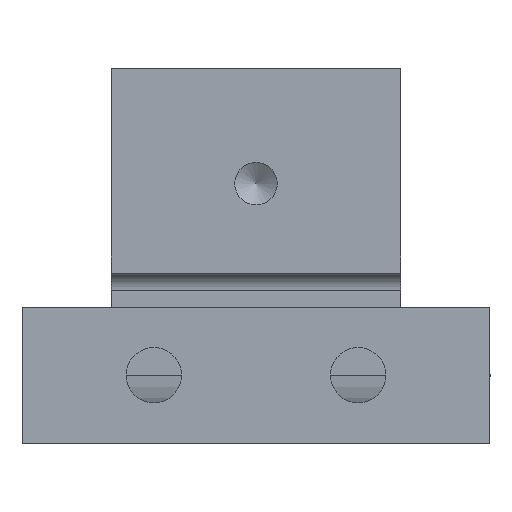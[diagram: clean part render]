
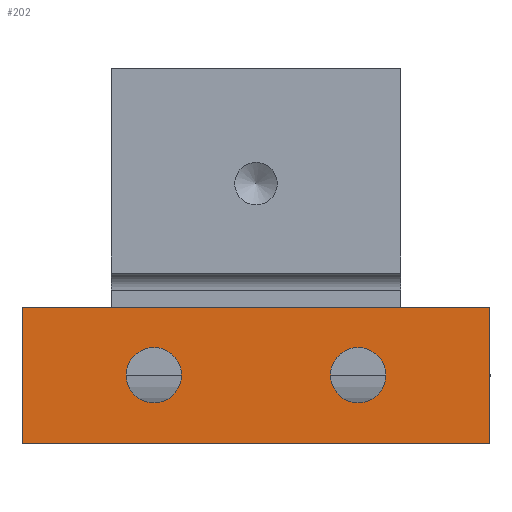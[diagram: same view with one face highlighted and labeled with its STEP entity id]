
A CAD part, front view. The second image highlights one B-rep face of the part: STEP entity #202.
In plain terms, the highlighted planar face has unit normal (0, -1, 0).
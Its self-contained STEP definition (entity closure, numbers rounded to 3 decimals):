
#2 = LINE ( 'NONE', #488, #953 ) ;
#44 = DIRECTION ( 'NONE',  ( 1., 0., 0. ) ) ;
#51 = FACE_BOUND ( 'NONE', #547, .T. ) ;
#57 = CARTESIAN_POINT ( 'NONE',  ( 12., 0., 0. ) ) ;
#73 = PLANE ( 'NONE',  #873 ) ;
#74 = VERTEX_POINT ( 'NONE', #191 ) ;
#170 = VERTEX_POINT ( 'NONE', #971 ) ;
#178 = CARTESIAN_POINT ( 'NONE',  ( -27.5, 0., 8. ) ) ;
#191 = CARTESIAN_POINT ( 'NONE',  ( 12., 0., 3.25 ) ) ;
#202 = ADVANCED_FACE ( 'NONE', ( #307, #51, #1019 ), #73, .F. ) ;
#233 = ORIENTED_EDGE ( 'NONE', *, *, #320, .T. ) ;
#264 = VERTEX_POINT ( 'NONE', #178 ) ;
#284 = LINE ( 'NONE', #914, #549 ) ;
#290 = CARTESIAN_POINT ( 'NONE',  ( 27.5, 0., -8. ) ) ;
#294 = VECTOR ( 'NONE', #44, 1000. ) ;
#298 = EDGE_CURVE ( 'NONE', #264, #170, #284, .T. ) ;
#301 = DIRECTION ( 'NONE',  ( 0., 1., 0. ) ) ;
#302 = VERTEX_POINT ( 'NONE', #1502 ) ;
#304 = ORIENTED_EDGE ( 'NONE', *, *, #360, .F. ) ;
#307 = FACE_BOUND ( 'NONE', #1458, .T. ) ;
#311 = VERTEX_POINT ( 'NONE', #290 ) ;
#320 = EDGE_CURVE ( 'NONE', #74, #74, #1448, .T. ) ;
#360 = EDGE_CURVE ( 'NONE', #1538, #311, #1206, .T. ) ;
#380 = EDGE_LOOP ( 'NONE', ( #1554, #1073, #1404, #304 ) ) ;
#405 = AXIS2_PLACEMENT_3D ( 'NONE', #1157, #1530, #1034 ) ;
#447 = VECTOR ( 'NONE', #482, 1000. ) ;
#482 = DIRECTION ( 'NONE',  ( 0., 0., -1. ) ) ;
#488 = CARTESIAN_POINT ( 'NONE',  ( -27.5, 0., -8. ) ) ;
#518 = CARTESIAN_POINT ( 'NONE',  ( 27.5, 0., 8. ) ) ;
#534 = EDGE_CURVE ( 'NONE', #264, #1538, #621, .T. ) ;
#538 = DIRECTION ( 'NONE',  ( 0., 1., 0. ) ) ;
#547 = EDGE_LOOP ( 'NONE', ( #937 ) ) ;
#549 = VECTOR ( 'NONE', #1413, 1000. ) ;
#621 = LINE ( 'NONE', #985, #294 ) ;
#665 = DIRECTION ( 'NONE',  ( 0., 0., 1. ) ) ;
#709 = CARTESIAN_POINT ( 'NONE',  ( 27.5, 0., 10. ) ) ;
#746 = AXIS2_PLACEMENT_3D ( 'NONE', #57, #538, #665 ) ;
#771 = EDGE_CURVE ( 'NONE', #170, #311, #2, .T. ) ;
#873 = AXIS2_PLACEMENT_3D ( 'NONE', #1169, #301, #1387 ) ;
#882 = CIRCLE ( 'NONE', #405, 3.25 ) ;
#914 = CARTESIAN_POINT ( 'NONE',  ( -27.5, 0., 10. ) ) ;
#937 = ORIENTED_EDGE ( 'NONE', *, *, #1270, .T. ) ;
#953 = VECTOR ( 'NONE', #970, 1000. ) ;
#970 = DIRECTION ( 'NONE',  ( 1., 0., 0. ) ) ;
#971 = CARTESIAN_POINT ( 'NONE',  ( -27.5, 0., -8. ) ) ;
#985 = CARTESIAN_POINT ( 'NONE',  ( -27.5, 0., 8. ) ) ;
#1019 = FACE_OUTER_BOUND ( 'NONE', #380, .T. ) ;
#1034 = DIRECTION ( 'NONE',  ( 0., 0., 1. ) ) ;
#1073 = ORIENTED_EDGE ( 'NONE', *, *, #298, .T. ) ;
#1157 = CARTESIAN_POINT ( 'NONE',  ( -12., 0., 0. ) ) ;
#1169 = CARTESIAN_POINT ( 'NONE',  ( 27.5, 0., 10. ) ) ;
#1206 = LINE ( 'NONE', #709, #447 ) ;
#1270 = EDGE_CURVE ( 'NONE', #302, #302, #882, .T. ) ;
#1387 = DIRECTION ( 'NONE',  ( 0., 0., 1. ) ) ;
#1404 = ORIENTED_EDGE ( 'NONE', *, *, #771, .T. ) ;
#1413 = DIRECTION ( 'NONE',  ( 0., 0., -1. ) ) ;
#1448 = CIRCLE ( 'NONE', #746, 3.25 ) ;
#1458 = EDGE_LOOP ( 'NONE', ( #233 ) ) ;
#1502 = CARTESIAN_POINT ( 'NONE',  ( -12., 0., 3.25 ) ) ;
#1530 = DIRECTION ( 'NONE',  ( 0., 1., 0. ) ) ;
#1538 = VERTEX_POINT ( 'NONE', #518 ) ;
#1554 = ORIENTED_EDGE ( 'NONE', *, *, #534, .F. ) ;
